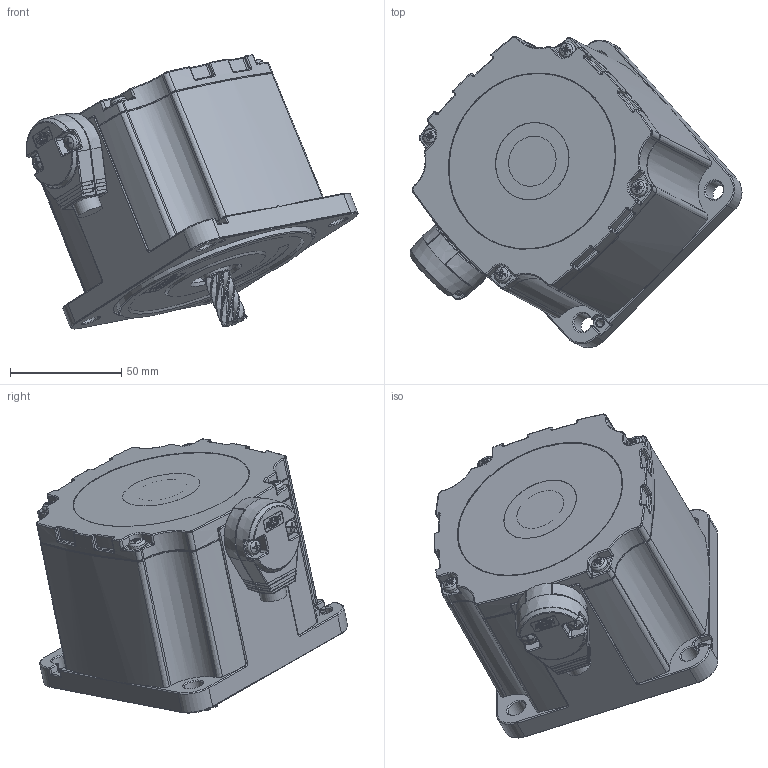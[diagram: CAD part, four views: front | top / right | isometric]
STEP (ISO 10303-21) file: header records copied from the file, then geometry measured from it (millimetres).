
FILE_DESCRIPTION(/* description */ (''),/* implementation_level */ '2;1');
FILE_NAME(/* name */ 'Z:\작성문서\_참조자료\4. BLDC 참조자료\발송용 3D\XVM10200G.stp',/* time_stamp */ '2019-01-23T10:35:44+09:00',/* author */ ('jingon'),/* organization */ (''),/* preprocessor_version */ 'ST-DEVELOPER v16.13',/* originating_system */ 'Autodesk Inventor 2018',/* authorisation */ '');
FILE_SCHEMA (('AUTOMOTIVE_DESIGN { 1 0 10303 214 3 1 1 }'));
Products named in the file (1): XVM10200G
Bounding box: 149.54 x 140.17 x 123.47 mm (x, y, z)
Volume: 273730.9 mm3; surface area: 112584.6 mm2
Topology: 11 solids, 18 shells, 1729 faces, 4523 edges, 2790 vertices
Faces by surface type: cylinder 545, plane 545, bspline 226, torus 186, cone 147, sphere 80
Full cylindrical faces by diameter (mm): 1.6 x1, 2 x1, 2.459 x5, 3.242 x4, 3.5 x2, 3.571 x6, 4 x6, 4.4 x4, 4.5 x4, 8.5 x4, 12 x1, 12.14 x1, 12.5 x1, 15 x2, 18 x1, 20.542 x2, 22 x1, 23 x2, 26.458 x2, 28 x1, 32 x2, 35.5 x1, 80.5 x1, 81 x1, 94 x2, 98 x3
Entity records: 65775 total; most frequent: CARTESIAN_POINT 23966, ORIENTED_EDGE 8456, DIRECTION 8223, EDGE_CURVE 4225, AXIS2_PLACEMENT_3D 3296, VERTEX_POINT 2687, EDGE_LOOP 1932, STYLED_ITEM 1728
